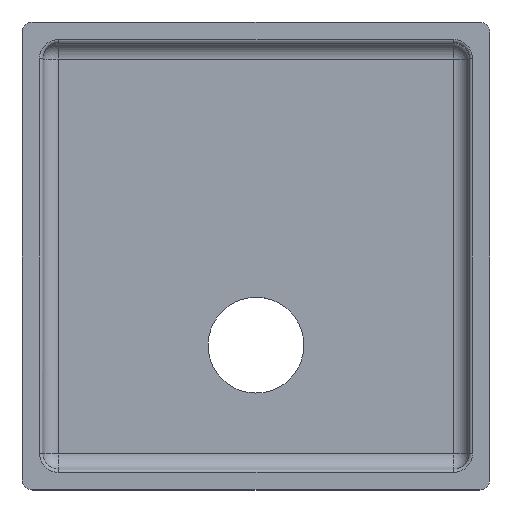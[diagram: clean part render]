
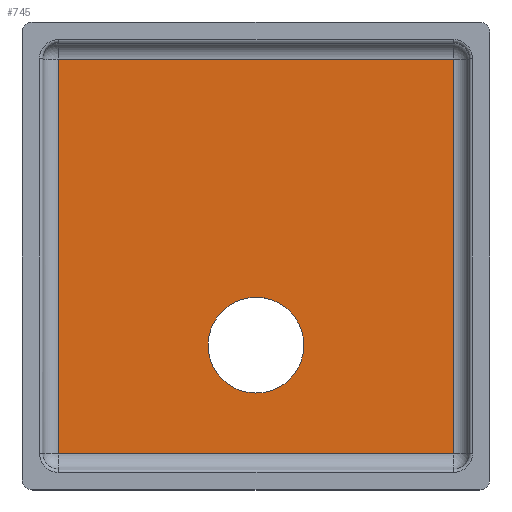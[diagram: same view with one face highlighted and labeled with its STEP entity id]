
A CAD part, top view. The second image highlights one B-rep face of the part: STEP entity #745.
In plain terms, the highlighted planar face has unit normal (0, 0, 1).
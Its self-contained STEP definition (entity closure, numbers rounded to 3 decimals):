
#312=CARTESIAN_POINT('Vertex',(185.5,-185.5,-198.)) ;
#315=CARTESIAN_POINT('Line Origine',(0.,-185.5,-198.)) ;
#319=CARTESIAN_POINT('Vertex',(-185.5,-185.5,-198.)) ;
#673=CARTESIAN_POINT('Axis2P3D Location',(200.5,185.5,-198.)) ;
#678=CARTESIAN_POINT('Line Origine',(185.5,185.5,-198.)) ;
#682=CARTESIAN_POINT('Vertex',(185.5,185.5,-198.)) ;
#685=CARTESIAN_POINT('Line Origine',(200.5,185.5,-198.)) ;
#689=CARTESIAN_POINT('Vertex',(-185.5,185.5,-198.)) ;
#692=CARTESIAN_POINT('Line Origine',(-185.5,185.5,-198.)) ;
#704=CARTESIAN_POINT('Control Point',(45.,-83.5,-198.)) ;
#705=CARTESIAN_POINT('Control Point',(45.,-90.569,-198.)) ;
#706=CARTESIAN_POINT('Control Point',(43.612,-97.637,-198.)) ;
#707=CARTESIAN_POINT('Control Point',(40.835,-104.342,-198.)) ;
#708=CARTESIAN_POINT('Control Point',(32.801,-116.301,-198.)) ;
#709=CARTESIAN_POINT('Control Point',(20.842,-124.335,-198.)) ;
#710=CARTESIAN_POINT('Control Point',(14.137,-127.112,-198.)) ;
#711=CARTESIAN_POINT('Control Point',(0.,-129.888,-198.)) ;
#712=CARTESIAN_POINT('Control Point',(-14.137,-127.112,-198.)) ;
#713=CARTESIAN_POINT('Control Point',(-20.842,-124.335,-198.)) ;
#714=CARTESIAN_POINT('Control Point',(-32.801,-116.301,-198.)) ;
#715=CARTESIAN_POINT('Control Point',(-40.835,-104.342,-198.)) ;
#716=CARTESIAN_POINT('Control Point',(-43.612,-97.637,-198.)) ;
#717=CARTESIAN_POINT('Control Point',(-45.,-90.569,-198.)) ;
#718=CARTESIAN_POINT('Control Point',(-45.,-83.5,-198.)) ;
#719=CARTESIAN_POINT('Vertex',(-45.,-83.5,-198.)) ;
#721=CARTESIAN_POINT('Vertex',(45.,-83.5,-198.)) ;
#725=CARTESIAN_POINT('Control Point',(-45.,-83.5,-198.)) ;
#726=CARTESIAN_POINT('Control Point',(-45.,-76.431,-198.)) ;
#727=CARTESIAN_POINT('Control Point',(-43.612,-69.363,-198.)) ;
#728=CARTESIAN_POINT('Control Point',(-40.835,-62.658,-198.)) ;
#729=CARTESIAN_POINT('Control Point',(-32.801,-50.699,-198.)) ;
#730=CARTESIAN_POINT('Control Point',(-20.842,-42.665,-198.)) ;
#731=CARTESIAN_POINT('Control Point',(-14.137,-39.888,-198.)) ;
#732=CARTESIAN_POINT('Control Point',(0.,-37.112,-198.)) ;
#733=CARTESIAN_POINT('Control Point',(14.137,-39.888,-198.)) ;
#734=CARTESIAN_POINT('Control Point',(20.842,-42.665,-198.)) ;
#735=CARTESIAN_POINT('Control Point',(32.801,-50.699,-198.)) ;
#736=CARTESIAN_POINT('Control Point',(40.835,-62.658,-198.)) ;
#737=CARTESIAN_POINT('Control Point',(43.612,-69.363,-198.)) ;
#738=CARTESIAN_POINT('Control Point',(45.,-76.431,-198.)) ;
#739=CARTESIAN_POINT('Control Point',(45.,-83.5,-198.)) ;
#316=DIRECTION('Vector Direction',(1.,0.,0.)) ;
#674=DIRECTION('Axis2P3D Direction',(0.,0.,-1.)) ;
#675=DIRECTION('Axis2P3D XDirection',(1.,0.,0.)) ;
#679=DIRECTION('Vector Direction',(0.,-1.,0.)) ;
#686=DIRECTION('Vector Direction',(1.,0.,0.)) ;
#693=DIRECTION('Vector Direction',(0.,-1.,0.)) ;
#676=AXIS2_PLACEMENT_3D('Plane Axis2P3D',#673,#674,#675) ;
#698=ORIENTED_EDGE('',*,*,#321,.F.) ;
#699=ORIENTED_EDGE('',*,*,#684,.F.) ;
#700=ORIENTED_EDGE('',*,*,#691,.F.) ;
#701=ORIENTED_EDGE('',*,*,#696,.F.) ;
#742=ORIENTED_EDGE('',*,*,#723,.F.) ;
#743=ORIENTED_EDGE('',*,*,#740,.F.) ;
#744=FACE_BOUND('',#741,.T.) ;
#317=VECTOR('Line Direction',#316,1.) ;
#680=VECTOR('Line Direction',#679,1.) ;
#687=VECTOR('Line Direction',#686,1.) ;
#694=VECTOR('Line Direction',#693,1.) ;
#745=ADVANCED_FACE('Vasca',(#702,#744),#677,.F.) ;
#703=B_SPLINE_CURVE_WITH_KNOTS('',5,(#704,#705,#706,#707,#708,#709,#710,#711,#712,#713,#714,#715,#716,#717,#718),.UNSPECIFIED.,.F.,.U.,(6,3,3,3,6),(282.743,318.086,353.429,388.772,424.115),.UNSPECIFIED.) ;
#724=B_SPLINE_CURVE_WITH_KNOTS('',5,(#725,#726,#727,#728,#729,#730,#731,#732,#733,#734,#735,#736,#737,#738,#739),.UNSPECIFIED.,.F.,.U.,(6,3,3,3,6),(424.115,459.458,494.801,530.144,565.487),.UNSPECIFIED.) ;
#321=EDGE_CURVE('',#313,#320,#318,.F.) ;
#684=EDGE_CURVE('',#683,#313,#681,.T.) ;
#691=EDGE_CURVE('',#690,#683,#688,.T.) ;
#696=EDGE_CURVE('',#320,#690,#695,.F.) ;
#723=EDGE_CURVE('',#720,#722,#703,.F.) ;
#740=EDGE_CURVE('',#722,#720,#724,.F.) ;
#697=EDGE_LOOP('',(#698,#699,#700,#701)) ;
#741=EDGE_LOOP('',(#742,#743)) ;
#702=FACE_OUTER_BOUND('',#697,.T.) ;
#318=LINE('Line',#315,#317) ;
#681=LINE('Line',#678,#680) ;
#688=LINE('Line',#685,#687) ;
#695=LINE('Line',#692,#694) ;
#677=PLANE('',#676) ;
#313=VERTEX_POINT('',#312) ;
#320=VERTEX_POINT('',#319) ;
#683=VERTEX_POINT('',#682) ;
#690=VERTEX_POINT('',#689) ;
#720=VERTEX_POINT('',#719) ;
#722=VERTEX_POINT('',#721) ;
